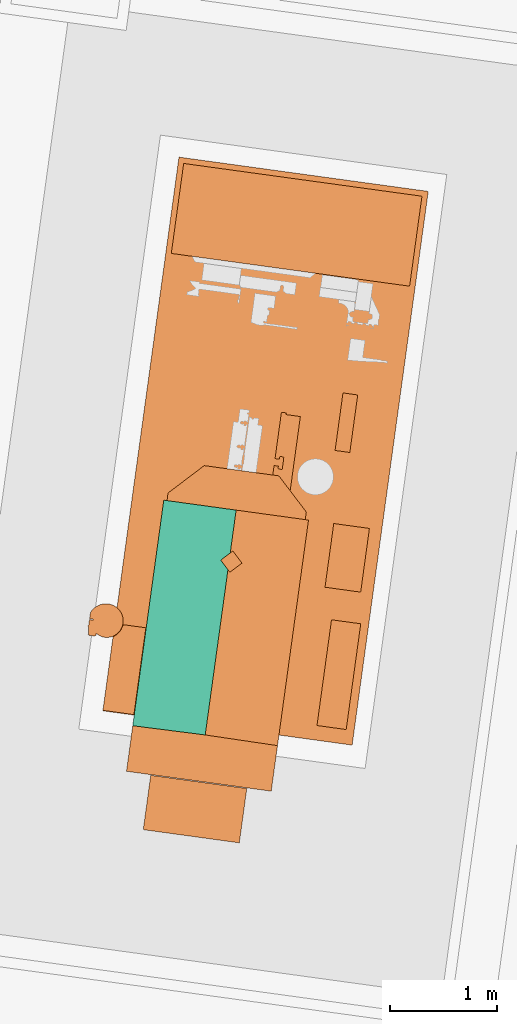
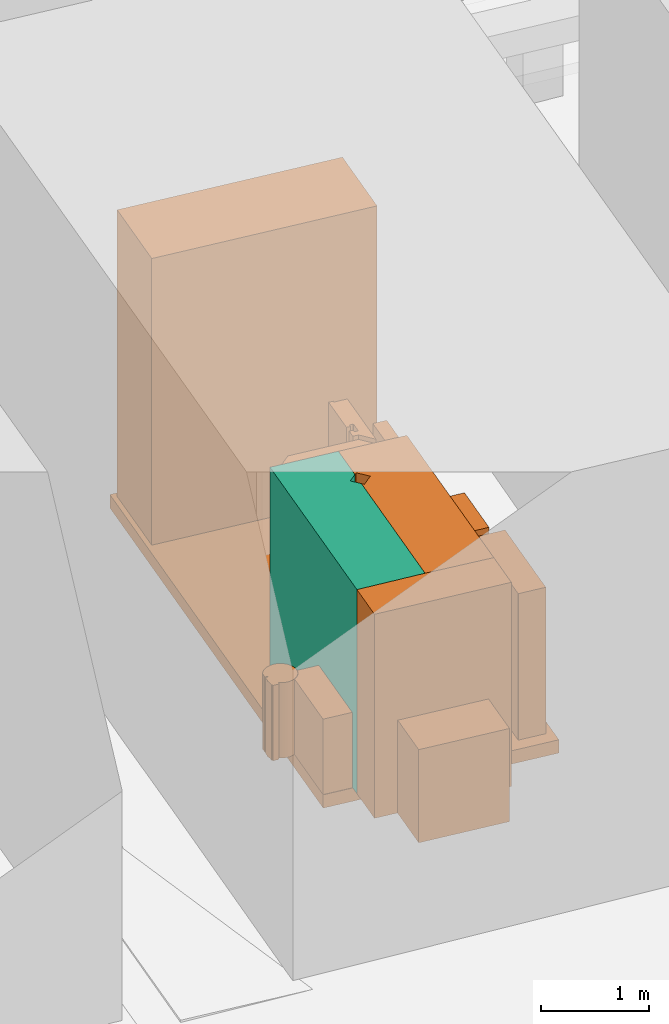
# Not in any storey, part 51 of 75: 12 proxies, 1 compressor.
"""IFC4 model written with IfcOpenShell, lengths in metres."""

import ifcopenshell
import ifcopenshell.guid

model = None  # the IFC model being written
_history = None  # IfcOwnerHistory: only IFC2X3 demands one
_inside = {}  # id of a spatial element -> (the spatial element, [elements in it])
_under = {}  # id of a project, library or spatial element -> (it, [spatial elements below it])
_declared = {}  # id of a project -> (the project, [libraries it declares])
_typed = {}  # id of a type object -> (the type object, [elements of that type])
_made_of = {}  # id of a material, layer set ... -> (it, [elements and type objects made of it])


def new_model(schema):
    """Start an empty IFC model of exactly this schema.

    Asked for "IFC4X3", IfcOpenShell would pick the latest addendum, in which some entities
    have other attributes; the version numbers below select the first issue.
    IFC2X3 requires an IfcOwnerHistory on every rooted entity: one is made here for all.
    """
    global model, _history
    if schema == "IFC4X3":
        model = ifcopenshell.file(schema_version=(4, 3, 0, 0))
    else:
        model = ifcopenshell.file(schema=schema)
    _inside.clear()
    _under.clear()
    _declared.clear()
    _typed.clear()
    _made_of.clear()
    _history = None
    if model.schema == "IFC2X3":
        org = make("IfcOrganization", Name="unknown")
        user = make(
            "IfcPersonAndOrganization",
            ThePerson=make("IfcPerson", FamilyName="unknown"),
            TheOrganization=org,
        )
        app = make(
            "IfcApplication",
            ApplicationDeveloper=org,
            Version="unknown",
            ApplicationFullName="unknown",
            ApplicationIdentifier="unknown",
        )
        _history = make(
            "IfcOwnerHistory",
            OwningUser=user,
            OwningApplication=app,
            ChangeAction="ADDED",
            CreationDate=0,
        )
    return model


def make(cls, **values):
    """One entity of the class cls with the attributes given. An attribute that is None is left unset."""
    return model.create_entity(
        cls, **{name: value for name, value in values.items() if value is not None}
    )


def rooted(cls, **values):
    """An entity with a GlobalId (a new one), such as an element, a storey or a relation."""
    return make(cls, GlobalId=ifcopenshell.guid.new(), OwnerHistory=_history, **values)


def si_unit(unit_type, name, prefix=None):
    """IfcSIUnit, for example si_unit("LENGTHUNIT", "METRE", prefix="MILLI")."""
    return make("IfcSIUnit", UnitType=unit_type, Prefix=prefix, Name=name)


def assignment(units):
    """IfcUnitAssignment: the units of a project."""
    return None if units is None else make("IfcUnitAssignment", Units=units)


def point(xyz):
    """IfcCartesianPoint."""
    return None if xyz is None else make("IfcCartesianPoint", Coordinates=xyz)


def direction(xyz):
    """IfcDirection."""
    return None if xyz is None else make("IfcDirection", DirectionRatios=xyz)


def frame(location, z_axis=None, x_axis=None):
    """IfcAxis2Placement3D, a coordinate frame: its origin and axes. An axis left out is left unset."""
    return make(
        "IfcAxis2Placement3D",
        Location=point(location),
        Axis=direction(z_axis),
        RefDirection=direction(x_axis),
    )


def origin_with_axes():
    """The frame at (0, 0, 0) with the z axis (0, 0, 1) and the x axis (1, 0, 0) written out."""
    return frame((0.0, 0.0, 0.0), z_axis=(0.0, 0.0, 1.0), x_axis=(1.0, 0.0, 0.0))


def place(relative_to, where):
    """IfcLocalPlacement: puts the frame where relative to a parent placement (None: the world)."""
    return make(
        "IfcLocalPlacement", PlacementRelTo=relative_to, RelativePlacement=where
    )


def context(
    kind, dimensions, precision=None, world=None, true_north=None, identifier=None
):
    """IfcGeometricRepresentationContext, for example the 3D "Model" context."""
    return make(
        "IfcGeometricRepresentationContext",
        ContextIdentifier=identifier,
        ContextType=kind,
        CoordinateSpaceDimension=dimensions,
        Precision=precision,
        WorldCoordinateSystem=world,
        TrueNorth=true_north,
    )


def subcontext(parent, identifier, kind, view, scale=None):
    """IfcGeometricRepresentationSubContext, for example "Body" below "Model"."""
    return make(
        "IfcGeometricRepresentationSubContext",
        ContextIdentifier=identifier,
        ContextType=kind,
        ParentContext=parent,
        TargetScale=scale,
        TargetView=view,
    )


def project(units=None, contexts=None):
    """IfcProject with its units and contexts."""
    return rooted(
        "IfcProject",
        Name="project",
        RepresentationContexts=contexts,
        UnitsInContext=assignment(units),
    )


def spatial(cls, under=None, at=None, **own):
    """A site, building, storey or space (cls), placed at a placement, below another one or the project."""
    s = rooted(cls, ObjectPlacement=at, **own)
    if under is not None:
        _under.setdefault(under.id(), (under, []))[1].append(s)
    return s


def point_list(points):
    """IfcCartesianPointList2D or 3D."""
    cls = (
        "IfcCartesianPointList2D" if len(points[0]) == 2 else "IfcCartesianPointList3D"
    )
    return make(cls, CoordList=points)


def triangles(points, corners, closed=None, point_numbers=None):
    """IfcTriangulatedFaceSet: each triangle names its three corners, points numbered from 1."""
    return make(
        "IfcTriangulatedFaceSet",
        Coordinates=point_list(points),
        Closed=closed,
        CoordIndex=corners,
        PnIndex=point_numbers,
    )


def shape(context_of_items, identifier, shape_type, items):
    """IfcShapeRepresentation: the items that make up one representation, for example the "Body"."""
    return make(
        "IfcShapeRepresentation",
        ContextOfItems=context_of_items,
        RepresentationIdentifier=identifier,
        RepresentationType=shape_type,
        Items=items,
    )


def made_of(thing, what):
    """Note that an element or type object is made of a material, layer set ...; save() writes the relation."""
    if what is not None:
        _made_of.setdefault(what.id(), (what, []))[1].append(thing)
    return thing


def element(
    cls,
    number,
    at=None,
    inside=None,
    cuts=None,
    type_object=None,
    material=None,
    context=None,
    identifier="Body",
    shape_type=None,
    held_by="IfcProductDefinitionShape",
    body=None,
    shapes=None,
    **own,
):
    """One element of the class cls, such as IfcWall. Its Tag is "e" and its number.

    at: its placement. inside: the storey or other place that contains it. cuts: it is an
    opening in that element (IfcRelVoidsElement). A single representation is given by context,
    identifier, shape_type and body (its items); several are given by shapes. held_by: the class
    of the entity that holds the representations. save() writes the other relations.
    """
    e = rooted(cls, Tag="e%d" % number, ObjectPlacement=at, **own)
    if body is not None:
        shapes = [shape(context, identifier, shape_type, body)]
    if shapes is not None:
        e.Representation = make(held_by, Representations=shapes)
    if inside is not None:
        _inside.setdefault(inside.id(), (inside, []))[1].append(e)
    if cuts is not None:
        rooted(
            "IfcRelVoidsElement", RelatingBuildingElement=cuts, RelatedOpeningElement=e
        )
    if type_object is not None:
        _typed.setdefault(type_object.id(), (type_object, []))[1].append(e)
    return made_of(e, material)


def aggregate(whole, parts):
    """IfcRelAggregates: a whole, such as a stair, and the parts it consists of."""
    return rooted("IfcRelAggregates", RelatingObject=whole, RelatedObjects=parts)


def save(model, path):
    """Write the relations noted so far, then the file.

    IfcRelAggregates (storeys below a building ...), IfcRelContainedInSpatialStructure (elements
    in a storey), IfcRelDefinesByType, IfcRelAssociatesMaterial and IfcRelDeclares: one each for
    every whole, place, type object, material and project.
    """
    for whole, parts in _under.values():
        aggregate(whole, parts)
    for where, things in _inside.values():
        rooted(
            "IfcRelContainedInSpatialStructure",
            RelatedElements=things,
            RelatingStructure=where,
        )
    for kind, things in _typed.values():
        rooted("IfcRelDefinesByType", RelatedObjects=things, RelatingType=kind)
    for what, things in _made_of.values():
        rooted("IfcRelAssociatesMaterial", RelatedObjects=things, RelatingMaterial=what)
    for by, libraries in _declared.values():
        rooted("IfcRelDeclares", RelatingContext=by, RelatedDefinitions=libraries)
    model.write(path)


model = new_model("IFC4")

# Units and contexts
model_context = context("Model", 3, precision=1e-05, world=origin_with_axes(), true_north=direction((0.0, 1.0)))
body_context = subcontext(model_context, "Body", "Model", "MODEL_VIEW")
ifc_project = project(units=[si_unit("AREAUNIT", "SQUARE_METRE"), si_unit("VOLUMEUNIT", "CUBIC_METRE"), si_unit("LENGTHUNIT", "METRE")], contexts=[model_context])

# Site
site_placement = place(None, origin_with_axes())
site = spatial("IfcSite", under=ifc_project, at=site_placement, Name="Parcela industrial Jinhong")

# Compressor, proxies
compressor_placement = place(site_placement, origin_with_axes())
compressor = element("IfcCompressor", 1, at=compressor_placement, inside=site, Name="Compresor de aire AC1001B · Carcasa principal · región CAD 1", ObjectType="Envolvente de equipo", PredefinedType="USERDEFINED", context=body_context, shape_type="Tessellation", body=[
    triangles([(55.863177, 72.357937, 3.95), (55.187335, 72.450855, 3.95), (55.808192, 71.957999, 3.95), (55.187335, 72.450855, 1.65), (55.863177, 72.357937, 1.65), (55.808192, 71.957999, 1.65), (54.897683, 70.344073, 3.95), (55.574466, 70.257991, 3.95), (55.574466, 70.257991, 1.65), (54.897683, 70.344073, 1.65), (55.719055, 71.89041, 3.95), (55.786644, 71.801273, 3.95), (55.786644, 71.801273, 1.65), (55.719055, 71.89041, 1.65)], [[1, 2, 3], [4, 5, 6], [2, 7, 8], [9, 10, 4], [8, 12, 11], [13, 9, 14], [3, 2, 11], [4, 6, 14], [2, 8, 11], [14, 9, 4], [4, 10, 7], [4, 7, 2], [10, 9, 8], [10, 8, 7], [9, 13, 12], [9, 12, 8], [11, 13, 14], [11, 12, 13], [14, 6, 3], [14, 3, 11], [6, 5, 1], [1, 3, 6], [5, 4, 2], [5, 2, 1]], closed=True),
])
proxy_1_placement = place(compressor_placement, origin_with_axes())
proxy_1 = element("IfcBuildingElementProxy", 2, at=proxy_1_placement, Name="Compresor de aire AC1001B · Envolvente del bastidor de referencia", context=body_context, shape_type="Tessellation", body=[
    triangles([(55.329528, 75.654646, 1.65), (54.618543, 70.483292, 1.65), (56.946643, 70.163212, 1.65), (55.329528, 75.654646, 1.5), (56.946643, 70.163212, 1.5), (54.618543, 70.483292, 1.5), (57.657628, 75.334566, 1.65), (57.657628, 75.334566, 1.5)], [[1, 2, 3], [4, 5, 6], [3, 7, 1], [5, 4, 8], [7, 5, 8], [5, 7, 3], [8, 4, 1], [7, 8, 1], [2, 4, 6], [4, 2, 1], [6, 5, 3], [6, 3, 2]], closed=True),
])
proxy_2_placement = place(compressor_placement, origin_with_axes())
proxy_2 = element("IfcBuildingElementProxy", 3, at=proxy_2_placement, Name="Compresor de aire AC1001B · Carcasa principal · región CAD 2", context=body_context, shape_type="Tessellation", body=[
    triangles([(56.539119, 72.265005, 3.95), (55.863177, 72.357937, 3.95), (56.249467, 70.158223, 3.95), (55.863177, 72.357937, 1.65), (56.539119, 72.265005, 1.65), (56.249467, 70.158223, 1.65), (55.808192, 71.957999, 3.95), (55.832194, 71.976199, 3.95), (55.832194, 71.976199, 1.65), (55.808192, 71.957999, 1.65), (55.786644, 71.801273, 3.95), (55.574466, 70.257991, 3.95), (55.804845, 71.777271, 3.95), (55.786644, 71.801273, 1.65), (55.804845, 71.777271, 1.65), (55.574466, 70.257991, 1.65), (55.917984, 71.86306, 3.95), (55.917984, 71.86306, 1.65)], [[1, 2, 3], [4, 5, 6], [2, 7, 8], [9, 10, 4], [11, 12, 13], [14, 15, 16], [2, 8, 17], [18, 9, 4], [12, 17, 13], [16, 15, 18], [17, 3, 2], [18, 4, 6], [17, 12, 3], [6, 16, 18], [4, 10, 7], [4, 7, 2], [10, 9, 8], [10, 8, 7], [9, 18, 17], [9, 17, 8], [18, 15, 13], [18, 13, 17], [15, 14, 11], [11, 13, 15], [12, 14, 16], [14, 12, 11], [16, 6, 3], [16, 3, 12], [6, 5, 1], [1, 3, 6], [5, 4, 2], [5, 2, 1]], closed=True),
])
proxy_3_placement = place(compressor_placement, origin_with_axes())
proxy_3 = element("IfcBuildingElementProxy", 4, at=proxy_3_placement, Name="Compresor de aire AC1001B · Cuerpo de equipo · región CAD 3", context=body_context, shape_type="Tessellation", body=[
    triangles([(57.481552, 74.4496, 4.88), (55.259478, 74.756011, 4.88), (55.259356, 74.755119, 4.88), (55.259478, 74.756011, 1.65), (57.481552, 74.4496, 1.65), (55.259356, 74.755119, 1.65), (57.598632, 75.287967, 4.88), (57.481014, 74.452299, 4.88), (57.48358, 74.451138, 4.88), (57.598632, 75.287967, 1.65), (57.48358, 74.451138, 1.65), (57.481014, 74.452299, 1.65), (57.59708, 75.289896, 4.88), (55.374884, 75.595415, 4.88), (57.596079, 75.289226, 4.88), (55.374884, 75.595415, 1.65), (57.59708, 75.289896, 1.65), (57.596079, 75.289226, 1.65), (55.373091, 75.594854, 4.88), (55.257917, 74.757134, 4.88), (55.37453, 75.592839, 4.88), (55.373091, 75.594854, 1.65), (55.37453, 75.592839, 1.65), (55.257917, 74.757134, 1.65), (55.261493, 74.75745, 4.88), (55.261493, 74.75745, 1.65), (57.595834, 75.287443, 4.88), (57.595834, 75.287443, 1.65), (55.376313, 75.592594, 4.88), (55.376313, 75.592594, 1.65)], [[1, 2, 3], [4, 5, 6], [7, 8, 9], [10, 11, 12], [13, 14, 15], [16, 17, 18], [19, 20, 21], [22, 23, 24], [1, 25, 2], [4, 26, 5], [8, 7, 27], [12, 28, 10], [15, 14, 27], [16, 18, 28], [20, 29, 21], [24, 23, 30], [8, 25, 1], [5, 26, 12], [8, 27, 14], [16, 28, 12], [29, 20, 25], [26, 24, 30], [8, 14, 29], [30, 16, 12], [25, 8, 29], [26, 30, 12], [5, 12, 8], [5, 8, 1], [12, 11, 9], [12, 9, 8], [11, 10, 7], [7, 9, 11], [27, 10, 28], [27, 7, 10], [28, 18, 15], [28, 15, 27], [18, 17, 13], [13, 15, 18], [17, 16, 14], [17, 14, 13], [16, 30, 29], [16, 29, 14], [30, 23, 21], [30, 21, 29], [23, 22, 19], [19, 21, 23], [20, 22, 24], [22, 20, 19], [25, 24, 26], [25, 20, 24], [26, 4, 2], [26, 2, 25], [3, 4, 6], [4, 3, 2], [6, 5, 1], [1, 3, 6]], closed=True),
])
proxy_4_placement = place(compressor_placement, origin_with_axes())
proxy_4 = element("IfcBuildingElementProxy", 5, at=proxy_4_placement, Name="Compresor de aire AC1001B · Carcasa principal · región CAD 4", context=body_context, shape_type="Tessellation", body=[
    triangles([(56.249467, 70.158223, 3.95), (54.839197, 69.918675, 3.95), (56.190981, 69.732825, 3.95), (54.839197, 69.918675, 1.65), (56.249467, 70.158223, 1.65), (56.190981, 69.732825, 1.65), (54.897683, 70.344073, 3.95), (55.574466, 70.257991, 3.95), (55.574466, 70.257991, 1.65), (54.897683, 70.344073, 1.65)], [[1, 2, 3], [4, 5, 6], [8, 7, 1], [9, 5, 10], [2, 1, 7], [10, 5, 4], [8, 5, 9], [8, 1, 5], [7, 9, 10], [7, 8, 9], [10, 4, 2], [10, 2, 7], [3, 4, 6], [4, 3, 2], [6, 5, 1], [1, 3, 6]], closed=True),
])
proxy_5_placement = place(compressor_placement, origin_with_axes())
proxy_5 = element("IfcBuildingElementProxy", 6, at=proxy_5_placement, Name="Compresor de aire AC1001B · Cuerpo de equipo · región CAD 5", context=body_context, shape_type="Tessellation", body=[
    triangles([(56.508903, 72.269159, 3.75), (55.227163, 72.51735, 3.75), (55.217451, 72.446715, 3.75), (55.227163, 72.51735, 1.65), (56.508903, 72.269159, 1.65), (55.217451, 72.446715, 1.65), (56.262442, 72.677635, 3.75), (56.518614, 72.339795, 3.75), (56.518614, 72.339795, 1.65), (56.262442, 72.677635, 1.65), (55.565003, 72.773522, 3.75), (55.565003, 72.773522, 1.65)], [[1, 2, 3], [4, 5, 6], [1, 8, 7], [9, 5, 10], [7, 11, 2], [4, 12, 10], [7, 2, 1], [5, 4, 10], [5, 9, 8], [5, 8, 1], [7, 9, 10], [7, 8, 9], [11, 10, 12], [11, 7, 10], [12, 4, 2], [12, 2, 11], [3, 4, 6], [4, 3, 2], [6, 5, 1], [1, 3, 6]], closed=True),
])
proxy_6_placement = place(compressor_placement, origin_with_axes())
proxy_6 = element("IfcBuildingElementProxy", 7, at=proxy_6_placement, Name="Compresor de aire AC1001B · Cuerpo de equipo · región CAD 6", context=body_context, shape_type="Tessellation", body=[
    triangles([(55.962789, 69.75804, 2.7), (55.065629, 69.881387, 2.7), (54.995797, 69.373465, 2.7), (55.065629, 69.881387, 1.65), (55.962789, 69.75804, 1.65), (54.995797, 69.373465, 1.65), (55.892958, 69.250118, 2.7), (55.892958, 69.250118, 1.65)], [[1, 2, 3], [4, 5, 6], [7, 1, 3], [6, 5, 8], [7, 6, 8], [7, 3, 6], [8, 5, 1], [8, 1, 7], [5, 4, 2], [5, 2, 1], [3, 4, 6], [4, 3, 2]], closed=True),
])
proxy_7_placement = place(compressor_placement, origin_with_axes())
proxy_7 = element("IfcBuildingElementProxy", 8, at=proxy_7_placement, Name="Compresor de aire AC1001B · Cuerpo de equipo · región CAD 7", context=body_context, shape_type="Tessellation", body=[
    triangles([(56.891341, 70.309406, 3.3), (56.619078, 70.34593, 3.3), (56.890327, 70.308637, 3.3), (56.619078, 70.34593, 1.65), (56.891341, 70.309406, 1.65), (56.890327, 70.308637, 1.65), (57.026755, 71.294341, 3.3), (57.023533, 71.296601, 3.3), (57.023533, 71.296601, 1.65), (57.026755, 71.294341, 1.65), (56.756643, 71.333294, 3.3), (56.753822, 71.331865, 3.3), (56.753822, 71.331865, 1.65), (56.756643, 71.333294, 1.65), (56.618408, 70.34693, 3.3), (56.618408, 70.34693, 1.65)], [[1, 2, 3], [4, 5, 6], [1, 7, 8], [9, 10, 5], [8, 11, 12], [13, 14, 9], [15, 2, 12], [4, 16, 13], [8, 2, 1], [5, 4, 9], [8, 12, 2], [4, 13, 9], [5, 10, 7], [5, 7, 1], [10, 9, 8], [10, 8, 7], [11, 9, 14], [11, 8, 9], [14, 13, 12], [14, 12, 11], [13, 16, 15], [13, 15, 12], [16, 4, 2], [16, 2, 15], [3, 4, 6], [4, 3, 2], [6, 5, 1], [1, 3, 6]], closed=True),
])
proxy_8_placement = place(compressor_placement, origin_with_axes())
proxy_8 = element("IfcBuildingElementProxy", 9, at=proxy_8_placement, Name="Compresor de aire AC1001B · Cuerpo de equipo · región CAD 8", context=body_context, shape_type="Tessellation", body=[
    triangles([(55.019919, 71.258849, 2.5), (54.61913, 70.487551, 2.5), (54.908409, 70.447779, 2.5), (55.019919, 71.258849, 1.65), (54.908409, 70.447779, 1.65), (54.61913, 70.487551, 1.65), (54.809296, 71.296589, 2.5), (54.805487, 71.281366, 2.5), (54.808111, 71.28797, 2.5), (54.805487, 71.281366, 1.65), (54.809296, 71.296589, 1.65), (54.808111, 71.28797, 1.65), (54.719461, 71.17913, 2.5), (54.713952, 71.177244, 2.5), (54.713952, 71.177244, 1.65), (54.719461, 71.17913, 1.65), (54.800896, 71.267058, 2.5), (54.800896, 71.267058, 1.65), (54.732732, 71.186087, 2.5), (54.732732, 71.186087, 1.65), (54.745343, 71.194851, 2.5), (54.745343, 71.194851, 1.65), (54.787353, 71.239041, 2.5), (54.787353, 71.239041, 1.65), (54.757063, 71.203738, 2.5), (54.757063, 71.203738, 1.65), (54.778624, 71.22621, 2.5), (54.778624, 71.22621, 1.65), (54.768235, 71.214517, 2.5), (54.768235, 71.214517, 1.65)], [[1, 2, 3], [4, 5, 6], [7, 8, 9], [10, 11, 12], [13, 14, 2], [6, 15, 16], [2, 1, 9], [6, 12, 4], [17, 9, 8], [12, 18, 10], [19, 13, 2], [6, 16, 20], [2, 9, 17], [18, 12, 6], [21, 19, 2], [6, 20, 22], [2, 17, 23], [24, 18, 6], [25, 21, 2], [6, 22, 26], [2, 23, 27], [28, 24, 6], [25, 2, 29], [26, 30, 6], [2, 27, 29], [30, 28, 6], [9, 4, 12], [9, 1, 4], [12, 11, 7], [7, 9, 12], [11, 10, 8], [11, 8, 7], [10, 18, 17], [10, 17, 8], [18, 24, 23], [18, 23, 17], [24, 28, 27], [24, 27, 23], [28, 30, 29], [28, 29, 27], [30, 26, 25], [30, 25, 29], [26, 22, 21], [26, 21, 25], [22, 20, 19], [22, 19, 21], [20, 16, 13], [20, 13, 19], [16, 15, 14], [16, 14, 13], [15, 6, 2], [15, 2, 14], [6, 5, 3], [6, 3, 2], [5, 4, 1], [1, 3, 5]], closed=True),
])
proxy_9_placement = place(compressor_placement, origin_with_axes())
proxy_9 = element("IfcBuildingElementProxy", 10, at=proxy_9_placement, Name="Compresor de aire AC1001B · Cuerpo de equipo · región CAD 9", context=body_context, shape_type="Tessellation", body=[
    triangles([(57.108166, 72.186769, 3.15), (56.775, 72.232575, 3.15), (57.026375, 71.591866, 3.15), (56.775, 72.232575, 1.65), (57.108166, 72.186769, 1.65), (57.026375, 71.591866, 1.65), (56.693209, 71.637671, 3.15), (56.693209, 71.637671, 1.65)], [[1, 2, 3], [4, 5, 6], [2, 7, 3], [6, 8, 4], [4, 8, 7], [4, 7, 2], [8, 6, 3], [8, 3, 7], [6, 5, 1], [1, 3, 6], [5, 4, 2], [5, 2, 1]], closed=True),
])
proxy_10_placement = place(compressor_placement, origin_with_axes())
proxy_10 = element("IfcBuildingElementProxy", 11, at=proxy_10_placement, Name="Compresor de aire AC1001B · Cuerpo de equipo · región CAD 11", context=body_context, shape_type="Tessellation", body=[
    triangles([(56.332573, 73.264991, 3.8), (56.331853, 73.265459, 3.8), (56.286182, 73.271738, 3.8), (56.286182, 73.271738, 1.65), (56.331853, 73.265459, 1.65), (56.332573, 73.264991, 1.65), (56.226648, 72.838711, 3.8), (56.266275, 72.833263, 3.8), (56.266275, 72.833263, 1.65), (56.226648, 72.838711, 1.65), (56.257394, 72.768671, 3.8), (56.217767, 72.774119, 3.8), (56.25467, 72.748857, 3.8), (56.217767, 72.774119, 1.65), (56.257394, 72.768671, 1.65), (56.25467, 72.748857, 1.65), (56.205577, 72.685453, 3.8), (56.262442, 72.677635, 3.8), (56.262442, 72.677635, 1.65), (56.205577, 72.685453, 1.65), (56.463173, 73.231657, 3.8), (56.336663, 73.249051, 3.8), (56.367885, 72.538577, 3.8), (56.336663, 73.249051, 1.65), (56.463173, 73.231657, 1.65), (56.367885, 72.538577, 1.65), (56.336785, 73.249942, 3.8), (56.324699, 73.251604, 3.8), (56.324699, 73.251604, 1.65), (56.336785, 73.249942, 1.65), (56.326615, 73.253057, 3.8), (56.326615, 73.253057, 1.65), (56.268999, 72.853077, 3.8), (56.268999, 72.853077, 1.65), (56.259883, 72.741983, 3.8), (56.259883, 72.741983, 1.65), (56.275873, 72.858289, 3.8), (56.275873, 72.858289, 1.65), (56.304306, 72.85438, 3.8), (56.304306, 72.85438, 1.65), (56.288315, 72.738074, 3.8), (56.288315, 72.738074, 1.65), (56.308626, 72.847628, 3.8), (56.308626, 72.847628, 1.65), (56.294298, 72.743409, 3.8), (56.294298, 72.743409, 1.65)], [[1, 2, 3], [4, 5, 6], [3, 7, 8], [9, 10, 4], [11, 12, 13], [14, 15, 16], [12, 17, 18], [19, 20, 14], [21, 22, 23], [24, 25, 26], [22, 27, 28], [29, 30, 24], [28, 31, 1], [6, 32, 29], [3, 8, 33], [34, 9, 4], [13, 12, 35], [16, 36, 14], [18, 23, 12], [19, 14, 26], [23, 22, 28], [26, 29, 24], [28, 1, 3], [4, 6, 29], [3, 33, 37], [38, 34, 4], [35, 12, 23], [26, 14, 36], [23, 28, 3], [26, 4, 29], [3, 37, 39], [40, 38, 4], [41, 35, 23], [26, 36, 42], [39, 43, 3], [40, 4, 44], [45, 41, 23], [26, 42, 46], [23, 3, 43], [44, 4, 26], [45, 23, 43], [44, 26, 46], [4, 10, 7], [4, 7, 3], [10, 9, 8], [10, 8, 7], [9, 34, 33], [9, 33, 8], [37, 34, 38], [37, 33, 34], [39, 38, 40], [39, 37, 38], [40, 44, 43], [40, 43, 39], [44, 46, 45], [44, 45, 43], [46, 42, 41], [46, 41, 45], [42, 36, 35], [42, 35, 41], [36, 16, 13], [36, 13, 35], [16, 15, 11], [11, 13, 16], [15, 14, 12], [15, 12, 11], [14, 20, 17], [14, 17, 12], [20, 19, 18], [20, 18, 17], [19, 26, 23], [19, 23, 18], [26, 25, 21], [21, 23, 26], [25, 24, 22], [25, 22, 21], [24, 30, 27], [24, 27, 22], [30, 29, 28], [30, 28, 27], [31, 29, 32], [31, 28, 29], [32, 6, 1], [32, 1, 31], [6, 5, 2], [6, 2, 1], [5, 4, 3], [5, 3, 2]], closed=True),
])
proxy_11_placement = place(compressor_placement, origin_with_axes())
proxy_11 = element("IfcBuildingElementProxy", 12, at=proxy_11_placement, Name="Compresor de aire AC1001B · Cuerpo de equipo · región CAD 12", context=body_context, shape_type="Tessellation", body=[
    triangles([(56.998853, 73.433476, 3.25), (56.787285, 72.915163, 3.25), (56.92499, 72.89623, 3.25), (56.998853, 73.433476, 1.65), (56.92499, 72.89623, 1.65), (56.787285, 72.915163, 1.65), (56.861149, 73.452409, 3.25), (56.861149, 73.452409, 1.65)], [[1, 2, 3], [4, 5, 6], [2, 1, 7], [6, 8, 4], [7, 4, 8], [7, 1, 4], [8, 6, 2], [8, 2, 7], [6, 5, 3], [6, 3, 2], [5, 4, 1], [1, 3, 5]], closed=True),
])
proxy_12_placement = place(compressor_placement, origin_with_axes())
proxy_12 = element("IfcBuildingElementProxy", 13, at=proxy_12_placement, Name="Compresor de aire AC1001B · Cuerpo de equipo · región CAD 13", context=body_context, shape_type="Tessellation", body=[
    triangles([(54.556607, 71.206769, 2.5), (54.545264, 71.18814, 2.5), (54.553883, 71.186955, 2.5), (54.556607, 71.206769, 1.65), (54.553883, 71.186955, 1.65), (54.545264, 71.18814, 1.65), (54.591166, 71.183545, 2.5), (54.573221, 71.193987, 2.5), (54.573221, 71.193987, 1.65), (54.591166, 71.183545, 1.65), (54.631538, 71.17103, 2.5), (54.610272, 71.17567, 2.5), (54.610272, 71.17567, 1.65), (54.631538, 71.17103, 1.65), (54.660202, 71.168805, 2.5), (54.6462, 71.169014, 2.5), (54.6462, 71.169014, 1.65), (54.660202, 71.168805, 1.65), (54.689611, 71.172736, 2.5), (54.675242, 71.17027, 2.5), (54.675242, 71.17027, 1.65), (54.689611, 71.172736, 1.65), (54.717239, 71.18206, 2.5), (54.704199, 71.176787, 2.5), (54.704199, 71.176787, 1.65), (54.717239, 71.18206, 1.65), (54.742999, 71.19689, 2.5), (54.73051, 71.189017, 2.5), (54.73051, 71.189017, 1.65), (54.742999, 71.19689, 1.65), (54.776294, 71.228348, 2.5), (54.765891, 71.216555, 2.5), (54.765891, 71.216555, 1.65), (54.776294, 71.228348, 1.65), (54.791945, 71.253349, 2.5), (54.7849, 71.240287, 2.5), (54.7849, 71.240287, 1.65), (54.791945, 71.253349, 1.65), (54.802911, 71.28172, 2.5), (54.79832, 71.267412, 2.5), (54.79832, 71.267412, 1.65), (54.802911, 71.28172, 1.65), (54.808285, 71.327414, 2.5), (54.807967, 71.312619, 2.5), (54.807967, 71.312619, 1.65), (54.808285, 71.327414, 1.65), (54.804589, 71.3578, 2.5), (54.806834, 71.342552, 2.5), (54.806834, 71.342552, 1.65), (54.804589, 71.3578, 1.65), (54.794728, 71.388126, 2.5), (54.800562, 71.373293, 2.5), (54.800562, 71.373293, 1.65), (54.794728, 71.388126, 1.65), (54.779116, 71.414801, 2.5), (54.787757, 71.401298, 2.5), (54.787757, 71.401298, 1.65), (54.779116, 71.414801, 1.65), (54.746082, 71.44912, 2.5), (54.76946, 71.427535, 2.5), (54.76946, 71.427535, 1.65), (54.746082, 71.44912, 1.65), (54.719434, 71.466007, 2.5), (54.733265, 71.457948, 2.5), (54.733265, 71.457948, 1.65), (54.719434, 71.466007, 1.65), (54.689366, 71.477106, 2.5), (54.704565, 71.472392, 2.5), (54.704565, 71.472392, 1.65), (54.689366, 71.477106, 1.65), (54.657687, 71.48237, 2.5), (54.674156, 71.481014, 2.5), (54.674156, 71.481014, 1.65), (54.657687, 71.48237, 1.65), (54.641902, 71.482824, 2.5), (54.625079, 71.481604, 2.5), (54.625079, 71.481604, 1.65), (54.641902, 71.482824, 1.65), (54.57859, 71.468716, 2.5), (54.593423, 71.47455, 2.5), (54.593423, 71.47455, 1.65), (54.57859, 71.468716, 1.65), (54.55001, 71.452457, 2.5), (54.564404, 71.460976, 2.5), (54.564404, 71.460976, 1.65), (54.55001, 71.452457, 1.65), (54.523041, 71.428103, 2.5), (54.536238, 71.441127, 2.5), (54.536238, 71.441127, 1.65), (54.523041, 71.428103, 1.65), (54.501418, 71.398573, 2.5), (54.511515, 71.414749, 2.5), (54.511515, 71.414749, 1.65), (54.501418, 71.398573, 1.65), (54.494991, 71.345958, 2.5), (54.498778, 71.373499, 2.5), (54.49443, 71.347751, 2.5), (54.498778, 71.373499, 1.65), (54.494991, 71.345958, 1.65), (54.49443, 71.347751, 1.65), (54.523961, 71.339351, 2.5), (54.497544, 71.344699, 2.5), (54.497544, 71.344699, 1.65), (54.523961, 71.339351, 1.65), (54.522116, 71.332539, 2.5), (54.496127, 71.334396, 2.5), (54.49333, 71.333872, 2.5), (54.49333, 71.333872, 1.65), (54.496127, 71.334396, 1.65), (54.522116, 71.332539, 1.65), (54.486233, 71.282258, 2.5), (54.492183, 71.331405, 2.5), (54.492183, 71.331405, 1.65), (54.486233, 71.282258, 1.65), (54.485196, 71.280583, 2.5), (54.480044, 71.281292, 2.5), (54.485231, 71.255141, 2.5), (54.480044, 71.281292, 1.65), (54.485196, 71.280583, 1.65), (54.485231, 71.255141, 1.65), (54.486304, 71.231374, 2.5), (54.481564, 71.196898, 2.5), (54.491074, 71.195591, 2.5), (54.486304, 71.231374, 1.65), (54.491074, 71.195591, 1.65), (54.481564, 71.196898, 1.65), (54.544325, 71.181304, 2.5), (54.490134, 71.188755, 2.5), (54.490134, 71.188755, 1.65), (54.544325, 71.181304, 1.65), (54.486158, 71.2428, 2.5), (54.486158, 71.2428, 1.65), (54.502088, 71.397573, 2.5), (54.502088, 71.397573, 1.65), (54.531089, 71.33393, 2.5), (54.531089, 71.33393, 1.65), (54.530443, 71.335835, 2.5), (54.530443, 71.335835, 1.65)], [[1, 2, 3], [4, 5, 6], [8, 7, 1], [9, 4, 10], [12, 11, 7], [13, 10, 14], [16, 15, 11], [17, 14, 18], [20, 19, 15], [21, 18, 22], [24, 23, 19], [25, 22, 26], [28, 27, 23], [29, 26, 30], [32, 31, 27], [33, 30, 34], [36, 35, 31], [37, 34, 38], [40, 39, 35], [41, 38, 42], [44, 43, 39], [45, 42, 46], [48, 47, 43], [49, 46, 50], [52, 51, 47], [53, 50, 54], [56, 55, 51], [57, 54, 58], [60, 59, 55], [61, 58, 62], [64, 63, 59], [65, 62, 66], [68, 67, 63], [69, 66, 70], [72, 71, 67], [73, 70, 74], [71, 75, 76], [77, 78, 74], [80, 79, 76], [81, 77, 82], [84, 83, 79], [85, 82, 86], [88, 87, 83], [89, 86, 90], [92, 91, 87], [93, 90, 94], [95, 96, 97], [98, 99, 100], [102, 101, 95], [103, 99, 104], [105, 106, 107], [108, 109, 110], [112, 111, 107], [113, 108, 114], [115, 116, 117], [118, 119, 120], [121, 122, 123], [124, 125, 126], [128, 127, 123], [129, 125, 130], [7, 11, 1], [10, 4, 14], [15, 19, 11], [18, 14, 22], [23, 27, 19], [26, 22, 30], [31, 35, 27], [34, 30, 38], [39, 43, 35], [42, 38, 46], [47, 51, 43], [50, 46, 54], [55, 59, 51], [58, 54, 62], [63, 67, 59], [66, 62, 70], [67, 71, 76], [77, 74, 70], [79, 83, 76], [82, 77, 86], [87, 91, 83], [90, 86, 94], [95, 101, 96], [98, 104, 99], [105, 107, 111], [114, 108, 110], [115, 117, 111], [119, 114, 120], [123, 131, 121], [132, 125, 124], [127, 2, 123], [125, 6, 130], [11, 19, 1], [14, 4, 22], [27, 35, 19], [30, 22, 38], [43, 51, 35], [46, 38, 54], [59, 67, 51], [62, 54, 70], [67, 76, 83], [86, 77, 70], [83, 91, 133], [134, 94, 86], [133, 96, 101], [104, 98, 134], [111, 135, 105], [114, 110, 136], [117, 131, 111], [120, 114, 132], [123, 2, 131], [125, 132, 6], [19, 35, 1], [22, 4, 38], [35, 51, 67], [70, 54, 38], [67, 83, 133], [134, 86, 70], [101, 137, 133], [138, 104, 134], [135, 111, 131], [132, 114, 136], [2, 1, 131], [6, 132, 4], [1, 35, 67], [70, 38, 4], [67, 133, 137], [138, 134, 70], [135, 131, 1], [4, 132, 136], [135, 67, 137], [136, 138, 70], [67, 135, 1], [4, 136, 70], [5, 4, 1], [1, 3, 5], [8, 4, 9], [8, 1, 4], [7, 9, 10], [7, 8, 9], [12, 10, 13], [12, 7, 10], [11, 13, 14], [11, 12, 13], [16, 14, 17], [16, 11, 14], [15, 17, 18], [15, 16, 17], [20, 18, 21], [20, 15, 18], [19, 21, 22], [19, 20, 21], [24, 22, 25], [24, 19, 22], [23, 25, 26], [23, 24, 25], [28, 26, 29], [28, 23, 26], [27, 29, 30], [27, 28, 29], [32, 30, 33], [32, 27, 30], [31, 33, 34], [31, 32, 33], [34, 37, 36], [34, 36, 31], [35, 37, 38], [35, 36, 37], [38, 41, 40], [38, 40, 35], [39, 41, 42], [39, 40, 41], [42, 45, 44], [42, 44, 39], [43, 45, 46], [43, 44, 45], [46, 49, 48], [46, 48, 43], [47, 49, 50], [47, 48, 49], [50, 53, 52], [50, 52, 47], [51, 53, 54], [51, 52, 53], [54, 57, 56], [54, 56, 51], [55, 57, 58], [55, 56, 57], [58, 61, 60], [58, 60, 55], [59, 61, 62], [59, 60, 61], [64, 62, 65], [64, 59, 62], [63, 65, 66], [63, 64, 65], [68, 66, 69], [68, 63, 66], [67, 69, 70], [67, 68, 69], [72, 70, 73], [72, 67, 70], [71, 73, 74], [71, 72, 73], [75, 74, 78], [75, 71, 74], [78, 77, 76], [78, 76, 75], [80, 77, 81], [80, 76, 77], [79, 81, 82], [79, 80, 81], [84, 82, 85], [84, 79, 82], [83, 85, 86], [83, 84, 85], [88, 86, 89], [88, 83, 86], [87, 89, 90], [87, 88, 89], [90, 93, 92], [90, 92, 87], [91, 93, 94], [91, 92, 93], [94, 134, 133], [94, 133, 91], [134, 98, 96], [134, 96, 133], [97, 98, 100], [98, 97, 96], [100, 99, 95], [95, 97, 100], [102, 99, 103], [102, 95, 99], [101, 103, 104], [101, 102, 103], [137, 104, 138], [137, 101, 104], [138, 136, 135], [138, 135, 137], [136, 110, 105], [136, 105, 135], [110, 109, 106], [110, 106, 105], [109, 108, 107], [109, 107, 106], [108, 113, 112], [108, 112, 107], [111, 113, 114], [111, 112, 113], [114, 119, 115], [114, 115, 111], [119, 118, 116], [119, 116, 115], [117, 118, 120], [118, 117, 116], [120, 132, 131], [120, 131, 117], [132, 124, 121], [132, 121, 131], [122, 124, 126], [124, 122, 121], [126, 125, 123], [126, 123, 122], [125, 129, 128], [125, 128, 123], [127, 129, 130], [127, 128, 129], [130, 6, 2], [130, 2, 127], [6, 5, 3], [6, 3, 2]], closed=True),
])
aggregate(compressor, [proxy_1, proxy_2, proxy_3, proxy_4, proxy_5, proxy_6, proxy_7, proxy_8, proxy_9, proxy_10, proxy_11, proxy_12])

save(model, "model.ifc")
